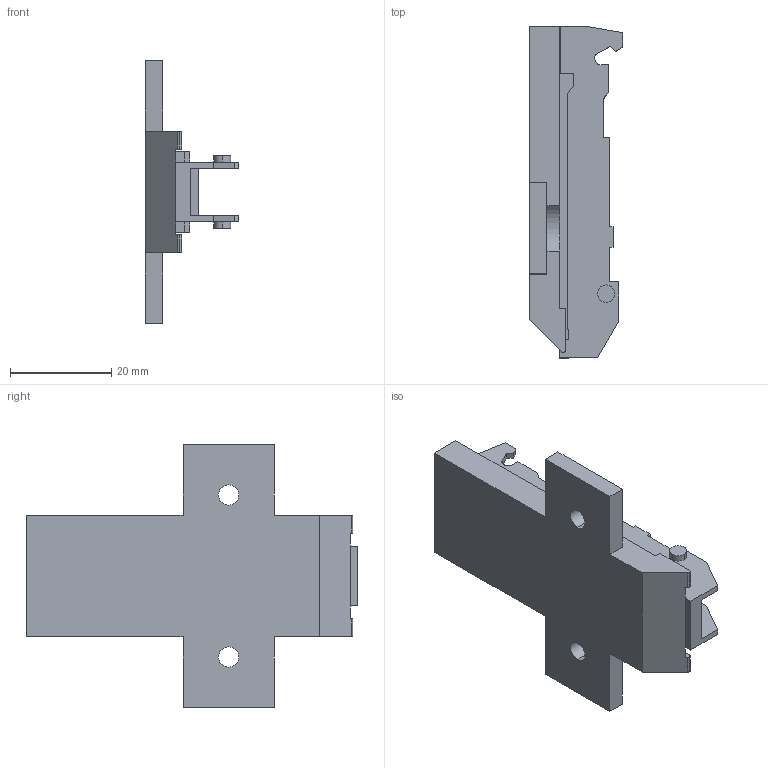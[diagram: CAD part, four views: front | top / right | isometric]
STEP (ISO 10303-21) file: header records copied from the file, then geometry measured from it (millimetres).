
FILE_DESCRIPTION (( 'STEP AP214' ), '1' );
FILE_NAME ('1D Kreuzmontageplatte_37_32_H08.STEP', '2011-08-18T13:47:34', ( '' ), ( '' ), 'SwSTEP 2.0', 'SolidWorks 2011', '' );
FILE_SCHEMA (( 'AUTOMOTIVE_DESIGN' ));
Length unit declared in the file: millimetre
Products named in the file (1): 1D Kreuzmontageplatte_37_32_H08
Bounding box: 18.5 x 65.55 x 52 mm (x, y, z)
Volume: 14467.6 mm3; surface area: 7944.9 mm2
Topology: 1 solids, 1 shells, 104 faces, 298 edges, 198 vertices
Faces by surface type: plane 88, cylinder 16
Entity records: 3400 total; most frequent: CARTESIAN_POINT 601, ORIENTED_EDGE 596, DIRECTION 540, EDGE_CURVE 298, VECTOR 266, LINE 266, VERTEX_POINT 198, AXIS2_PLACEMENT_3D 137
